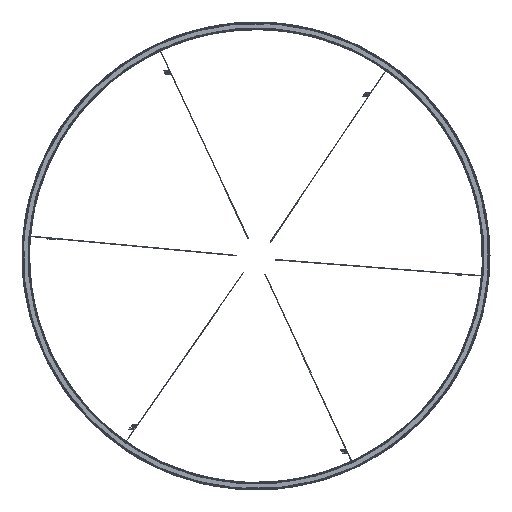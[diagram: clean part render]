
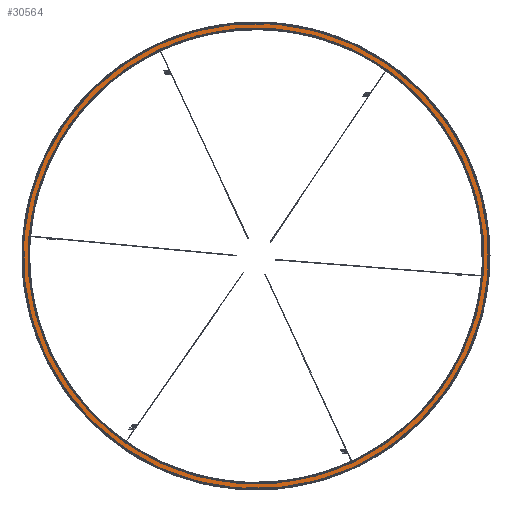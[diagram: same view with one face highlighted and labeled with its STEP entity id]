
A CAD part, top view. The second image highlights one B-rep face of the part: STEP entity #30564.
In plain terms, the highlighted planar face has unit normal (0, 0, 1).
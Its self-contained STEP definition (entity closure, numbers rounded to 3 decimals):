
#744=CIRCLE('',#32025,1190.45);
#745=CIRCLE('',#32027,1222.55);
#4496=ORIENTED_EDGE('',*,*,#9820,.T.);
#4497=ORIENTED_EDGE('',*,*,#9821,.F.);
#9820=EDGE_CURVE('',#12625,#12625,#744,.T.);
#9821=EDGE_CURVE('',#12626,#12626,#745,.T.);
#12625=VERTEX_POINT('',#43215);
#12626=VERTEX_POINT('',#43218);
#16661=EDGE_LOOP('',(#4496));
#16662=EDGE_LOOP('',(#4497));
#18445=FACE_BOUND('',#16661,.T.);
#18446=FACE_BOUND('',#16662,.T.);
#20016=PLANE('',#32026);
#30564=ADVANCED_FACE('',(#18445,#18446),#20016,.F.);
#32025=AXIS2_PLACEMENT_3D('',#43214,#34495,#34496);
#32026=AXIS2_PLACEMENT_3D('',#43216,#34497,#34498);
#32027=AXIS2_PLACEMENT_3D('',#43217,#34499,#34500);
#34495=DIRECTION('',(0.,0.,-1.));
#34496=DIRECTION('',(0.997,-0.083,0.));
#34497=DIRECTION('',(0.,0.,-1.));
#34498=DIRECTION('',(0.997,-0.083,0.));
#34499=DIRECTION('',(0.,0.,-1.));
#34500=DIRECTION('',(0.997,-0.083,0.));
#43214=CARTESIAN_POINT('',(0.,0.,36.));
#43215=CARTESIAN_POINT('',(1186.353,-98.683,36.));
#43216=CARTESIAN_POINT('',(678.638,-978.07,36.));
#43217=CARTESIAN_POINT('',(0.,0.,36.));
#43218=CARTESIAN_POINT('',(1218.342,-101.343,36.));
